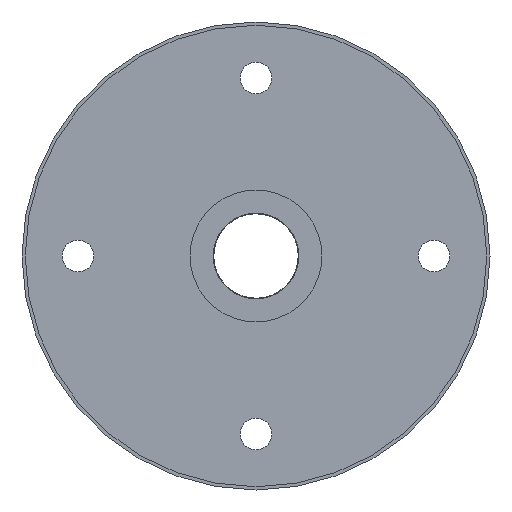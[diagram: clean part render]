
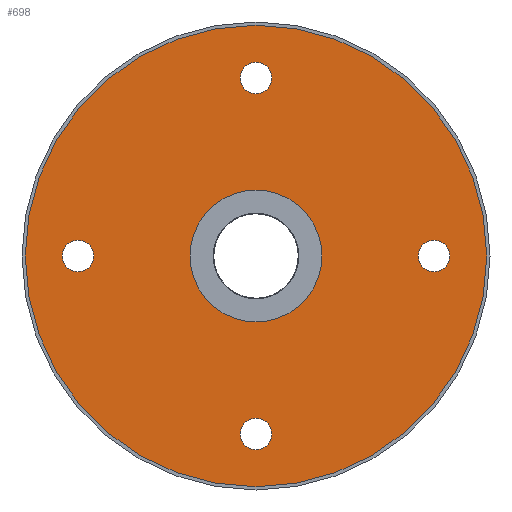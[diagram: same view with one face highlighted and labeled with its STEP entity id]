
A CAD part, front view. The second image highlights one B-rep face of the part: STEP entity #698.
In plain terms, the highlighted planar face has unit normal (0, -1, 0).
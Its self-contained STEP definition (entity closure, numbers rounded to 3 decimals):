
#547 = VERTEX_POINT ( 'NONE', #3461 ) ;
#549 = EDGE_CURVE ( 'NONE', #957, #547, #3458, .T. ) ;
#550 = EDGE_CURVE ( 'NONE', #554, #576, #3453, .T. ) ;
#554 = VERTEX_POINT ( 'NONE', #3506 ) ;
#561 = VERTEX_POINT ( 'NONE', #3494 ) ;
#562 = VERTEX_POINT ( 'NONE', #3493 ) ;
#564 = EDGE_CURVE ( 'NONE', #565, #592, #3492, .T. ) ;
#565 = VERTEX_POINT ( 'NONE', #3487 ) ;
#576 = VERTEX_POINT ( 'NONE', #3323 ) ;
#592 = VERTEX_POINT ( 'NONE', #3393 ) ;
#619 = VERTEX_POINT ( 'NONE', #3709 ) ;
#621 = EDGE_CURVE ( 'NONE', #622, #619, #3561, .T. ) ;
#622 = VERTEX_POINT ( 'NONE', #3556 ) ;
#628 = EDGE_CURVE ( 'NONE', #562, #561, #3564, .T. ) ;
#631 = EDGE_CURVE ( 'NONE', #867, #968, #3647, .T. ) ;
#632 = ORIENTED_EDGE ( 'NONE', *, *, #866, .F. ) ;
#633 = EDGE_LOOP ( 'NONE', ( #634, #635 ) ) ;
#634 = ORIENTED_EDGE ( 'NONE', *, *, #549, .T. ) ;
#635 = ORIENTED_EDGE ( 'NONE', *, *, #636, .T. ) ;
#636 = EDGE_CURVE ( 'NONE', #547, #957, #3642, .T. ) ;
#637 = EDGE_LOOP ( 'NONE', ( #638, #639 ) ) ;
#638 = ORIENTED_EDGE ( 'NONE', *, *, #621, .T. ) ;
#639 = ORIENTED_EDGE ( 'NONE', *, *, #640, .T. ) ;
#640 = EDGE_CURVE ( 'NONE', #619, #622, #3637, .T. ) ;
#641 = EDGE_LOOP ( 'NONE', ( #642, #643 ) ) ;
#642 = ORIENTED_EDGE ( 'NONE', *, *, #564, .T. ) ;
#643 = ORIENTED_EDGE ( 'NONE', *, *, #644, .T. ) ;
#644 = EDGE_CURVE ( 'NONE', #592, #565, #3631, .T. ) ;
#697 = EDGE_LOOP ( 'NONE', ( #699, #700 ) ) ;
#698 = ADVANCED_FACE ( 'NONE', ( #3102, #3101, #3100, #3099, #3098, #3097 ), #3144, .F. ) ;
#699 = ORIENTED_EDGE ( 'NONE', *, *, #550, .T. ) ;
#700 = ORIENTED_EDGE ( 'NONE', *, *, #701, .T. ) ;
#701 = EDGE_CURVE ( 'NONE', #576, #554, #3139, .T. ) ;
#702 = EDGE_LOOP ( 'NONE', ( #703, #704 ) ) ;
#703 = ORIENTED_EDGE ( 'NONE', *, *, #628, .T. ) ;
#704 = ORIENTED_EDGE ( 'NONE', *, *, #705, .T. ) ;
#705 = EDGE_CURVE ( 'NONE', #561, #562, #3133, .T. ) ;
#706 = EDGE_LOOP ( 'NONE', ( #707, #632 ) ) ;
#707 = ORIENTED_EDGE ( 'NONE', *, *, #631, .F. ) ;
#866 = EDGE_CURVE ( 'NONE', #968, #867, #3045, .T. ) ;
#867 = VERTEX_POINT ( 'NONE', #3046 ) ;
#957 = VERTEX_POINT ( 'NONE', #2962 ) ;
#968 = VERTEX_POINT ( 'NONE', #2973 ) ;
#2962 = CARTESIAN_POINT ( 'NONE',  ( -27., -2., -2.4 ) ) ;
#2973 = CARTESIAN_POINT ( 'NONE',  ( 0., -2., 35. ) ) ;
#3041 = DIRECTION ( 'NONE',  ( 0., 0., 1. ) ) ;
#3042 = DIRECTION ( 'NONE',  ( 0., 1., 0. ) ) ;
#3043 = CARTESIAN_POINT ( 'NONE',  ( 0., -2., 0. ) ) ;
#3044 = AXIS2_PLACEMENT_3D ( 'NONE', #3043, #3042, #3041 ) ;
#3045 = CIRCLE ( 'NONE', #3044, 35. ) ;
#3046 = CARTESIAN_POINT ( 'NONE',  ( 0., -2., -35. ) ) ;
#3097 = FACE_BOUND ( 'NONE', #641, .T. ) ;
#3098 = FACE_BOUND ( 'NONE', #637, .T. ) ;
#3099 = FACE_BOUND ( 'NONE', #633, .T. ) ;
#3100 = FACE_OUTER_BOUND ( 'NONE', #706, .T. ) ;
#3101 = FACE_BOUND ( 'NONE', #702, .T. ) ;
#3102 = FACE_BOUND ( 'NONE', #697, .T. ) ;
#3129 = DIRECTION ( 'NONE',  ( 0., 0., 1. ) ) ;
#3130 = DIRECTION ( 'NONE',  ( 0., 1., 0. ) ) ;
#3131 = CARTESIAN_POINT ( 'NONE',  ( 0., -2., 0. ) ) ;
#3132 = AXIS2_PLACEMENT_3D ( 'NONE', #3131, #3130, #3129 ) ;
#3133 = CIRCLE ( 'NONE', #3132, 10. ) ;
#3135 = DIRECTION ( 'NONE',  ( 0., 0., 1. ) ) ;
#3136 = DIRECTION ( 'NONE',  ( 0., 1., 0. ) ) ;
#3137 = CARTESIAN_POINT ( 'NONE',  ( 0., -2., -27. ) ) ;
#3138 = AXIS2_PLACEMENT_3D ( 'NONE', #3137, #3136, #3135 ) ;
#3139 = CIRCLE ( 'NONE', #3138, 2.4 ) ;
#3140 = DIRECTION ( 'NONE',  ( 0., 0., 1. ) ) ;
#3141 = DIRECTION ( 'NONE',  ( 0., 1., 0. ) ) ;
#3142 = CARTESIAN_POINT ( 'NONE',  ( 0., -2., 0. ) ) ;
#3143 = AXIS2_PLACEMENT_3D ( 'NONE', #3142, #3141, #3140 ) ;
#3144 = PLANE ( 'NONE',  #3143 ) ;
#3323 = CARTESIAN_POINT ( 'NONE',  ( 0., -2., -24.6 ) ) ;
#3393 = CARTESIAN_POINT ( 'NONE',  ( 27., -2., 2.4 ) ) ;
#3450 = DIRECTION ( 'NONE',  ( 0., 0., 1. ) ) ;
#3451 = DIRECTION ( 'NONE',  ( 0., 1., 0. ) ) ;
#3452 = AXIS2_PLACEMENT_3D ( 'NONE', #3459, #3451, #3450 ) ;
#3453 = CIRCLE ( 'NONE', #3452, 2.4 ) ;
#3454 = DIRECTION ( 'NONE',  ( 0., 0., 1. ) ) ;
#3455 = DIRECTION ( 'NONE',  ( 0., 1., 0. ) ) ;
#3456 = CARTESIAN_POINT ( 'NONE',  ( -27., -2., 0. ) ) ;
#3457 = AXIS2_PLACEMENT_3D ( 'NONE', #3456, #3455, #3454 ) ;
#3458 = CIRCLE ( 'NONE', #3457, 2.4 ) ;
#3459 = CARTESIAN_POINT ( 'NONE',  ( 0., -2., -27. ) ) ;
#3461 = CARTESIAN_POINT ( 'NONE',  ( -27., -2., 2.4 ) ) ;
#3487 = CARTESIAN_POINT ( 'NONE',  ( 27., -2., -2.4 ) ) ;
#3488 = DIRECTION ( 'NONE',  ( 0., 0., 1. ) ) ;
#3489 = DIRECTION ( 'NONE',  ( 0., 1., 0. ) ) ;
#3490 = CARTESIAN_POINT ( 'NONE',  ( 27., -2., 0. ) ) ;
#3491 = AXIS2_PLACEMENT_3D ( 'NONE', #3490, #3489, #3488 ) ;
#3492 = CIRCLE ( 'NONE', #3491, 2.4 ) ;
#3493 = CARTESIAN_POINT ( 'NONE',  ( 0., -2., -10. ) ) ;
#3494 = CARTESIAN_POINT ( 'NONE',  ( 0., -2., 10. ) ) ;
#3506 = CARTESIAN_POINT ( 'NONE',  ( 0., -2., -29.4 ) ) ;
#3556 = CARTESIAN_POINT ( 'NONE',  ( 0., -2., 24.6 ) ) ;
#3557 = DIRECTION ( 'NONE',  ( 0., 0., 1. ) ) ;
#3558 = DIRECTION ( 'NONE',  ( 0., 1., 0. ) ) ;
#3559 = CARTESIAN_POINT ( 'NONE',  ( 0., -2., 27. ) ) ;
#3560 = AXIS2_PLACEMENT_3D ( 'NONE', #3559, #3558, #3557 ) ;
#3561 = CIRCLE ( 'NONE', #3560, 2.4 ) ;
#3564 = CIRCLE ( 'NONE', #3655, 10. ) ;
#3627 = DIRECTION ( 'NONE',  ( 0., 0., 1. ) ) ;
#3628 = DIRECTION ( 'NONE',  ( 0., 1., 0. ) ) ;
#3629 = CARTESIAN_POINT ( 'NONE',  ( 27., -2., 0. ) ) ;
#3630 = AXIS2_PLACEMENT_3D ( 'NONE', #3629, #3628, #3627 ) ;
#3631 = CIRCLE ( 'NONE', #3630, 2.4 ) ;
#3633 = DIRECTION ( 'NONE',  ( 0., 0., 1. ) ) ;
#3634 = DIRECTION ( 'NONE',  ( 0., 1., 0. ) ) ;
#3635 = CARTESIAN_POINT ( 'NONE',  ( 0., -2., 27. ) ) ;
#3636 = AXIS2_PLACEMENT_3D ( 'NONE', #3635, #3634, #3633 ) ;
#3637 = CIRCLE ( 'NONE', #3636, 2.4 ) ;
#3638 = DIRECTION ( 'NONE',  ( 0., 0., 1. ) ) ;
#3639 = DIRECTION ( 'NONE',  ( 0., 1., 0. ) ) ;
#3640 = CARTESIAN_POINT ( 'NONE',  ( -27., -2., 0. ) ) ;
#3641 = AXIS2_PLACEMENT_3D ( 'NONE', #3640, #3639, #3638 ) ;
#3642 = CIRCLE ( 'NONE', #3641, 2.4 ) ;
#3643 = DIRECTION ( 'NONE',  ( 0., 0., 1. ) ) ;
#3644 = DIRECTION ( 'NONE',  ( 0., 1., 0. ) ) ;
#3645 = CARTESIAN_POINT ( 'NONE',  ( 0., -2., 0. ) ) ;
#3646 = AXIS2_PLACEMENT_3D ( 'NONE', #3645, #3644, #3643 ) ;
#3647 = CIRCLE ( 'NONE', #3646, 35. ) ;
#3652 = DIRECTION ( 'NONE',  ( 0., 0., 1. ) ) ;
#3653 = DIRECTION ( 'NONE',  ( 0., 1., 0. ) ) ;
#3654 = CARTESIAN_POINT ( 'NONE',  ( 0., -2., 0. ) ) ;
#3655 = AXIS2_PLACEMENT_3D ( 'NONE', #3654, #3653, #3652 ) ;
#3709 = CARTESIAN_POINT ( 'NONE',  ( 0., -2., 29.4 ) ) ;
